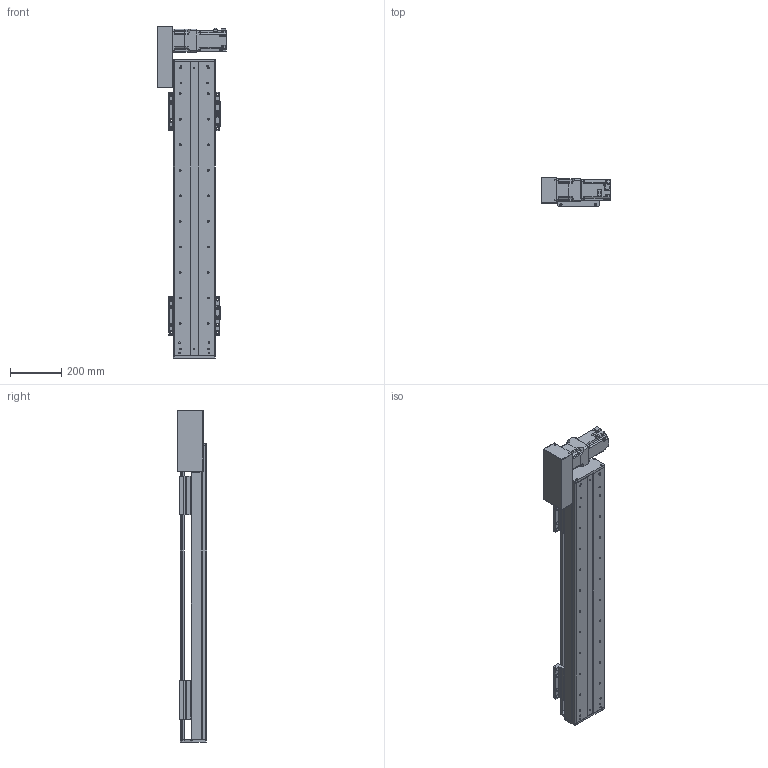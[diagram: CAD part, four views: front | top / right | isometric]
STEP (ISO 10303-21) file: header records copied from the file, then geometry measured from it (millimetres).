
FILE_DESCRIPTION(/* description */ (''),/* implementation_level */ '2;1');
FILE_NAME(/* name */ 'C:\Users\PC\Desktop\3D도면\STEP\DSB165-L7G-W0800-R.stp',/* time_stamp */ '2018-06-25T14:30:07+09:00',/* author */ ('PC'),/* organization */ (''),/* preprocessor_version */ 'ST-DEVELOPER v16.5',/* originating_system */ 'Autodesk Inventor 2017',/* authorisation */ '');
FILE_SCHEMA (('AUTOMOTIVE_DESIGN { 1 0 10303 214 3 1 1 }'));
Length unit declared in the file: millimetre
Products named in the file (12): DSB165-L; DSR165-BASE_S; hg-kr73_; ab0901-p0401300102; 11-DBS165 BELT COVER; DBS165-COVER; DBS165-COVER_1; DBS165-UP COVER; DBS165-TABLE(MSA20S); DSR126-SENSOR DOG; pm-y65_step; SENSOR BRACKET(EE-SX674A)
Assembly tree (16 placements, depth 2):
  DSB165-L
    DSR165-BASE_S
    hg-kr73_
    ab0901-p0401300102
    11-DBS165 BELT COVER
    DBS165-COVER
    DBS165-COVER_1
    DBS165-UP COVER
    DBS165-TABLE(MSA20S)  x2
    DSR126-SENSOR DOG
    pm-y65_step  x3
    SENSOR BRACKET(EE-SX674A)  x3
Bounding box: 270 x 115 x 1300 mm (x, y, z)
Volume: 7952813.6 mm3; surface area: 1837288.6 mm2
Topology: 17 solids, 22 shells, 1671 faces, 4485 edges, 2958 vertices
Faces by surface type: plane 926, cylinder 621, cone 112, sphere 8, torus 4
Full cylindrical faces by diameter (mm): 2.459 x20, 3.5 x6, 4.134 x42, 4.5 x18, 5 x27, 5.5 x36, 5.9 x4, 6 x8, 6.6 x14, 6.647 x40, 6.8 x1, 7 x4, 7.6 x4, 8 x1, 8.4 x1, 8.5 x24, 8.7 x1, 9.5 x32, 11 x6, 14 x16, 19 x1, 22 x1, 24 x1, 25 x1, 28 x1, 67 x1, 70 x2, 80 x1
Entity records: 35549 total; most frequent: DIRECTION 6284, CARTESIAN_POINT 6091, ORIENTED_EDGE 5542, EDGE_CURVE 2776, AXIS2_PLACEMENT_3D 2312, VERTEX_POINT 1981, EDGE_LOOP 1739, LINE 1660
